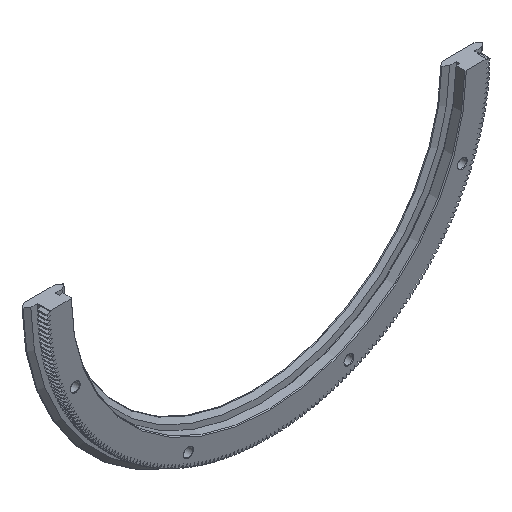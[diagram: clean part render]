
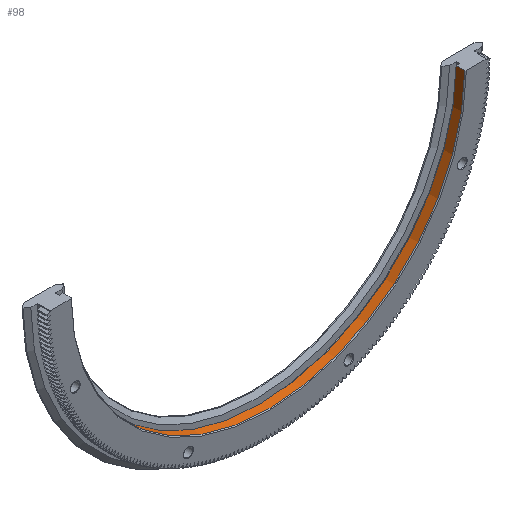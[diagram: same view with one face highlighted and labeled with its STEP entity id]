
A CAD part, isometric view. The second image highlights one B-rep face of the part: STEP entity #98.
In plain terms, the highlighted cylindrical face has radius 119.8 mm (diameter 239.6 mm), a partial arc.
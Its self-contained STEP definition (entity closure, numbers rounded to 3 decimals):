
#98 = ADVANCED_FACE( '', ( #1171 ), #1172, .F. );
#1171 = FACE_OUTER_BOUND( '', #3276, .T. );
#1172 = CYLINDRICAL_SURFACE( '', #3277, 119.8 );
#3276 = EDGE_LOOP( '', ( #5848, #5849, #5850, #5851 ) );
#3277 = AXIS2_PLACEMENT_3D( '', #5852, #5853, #5854 );
#5848 = ORIENTED_EDGE( '', *, *, #14364, .F. );
#5849 = ORIENTED_EDGE( '', *, *, #13960, .T. );
#5850 = ORIENTED_EDGE( '', *, *, #14365, .T. );
#5851 = ORIENTED_EDGE( '', *, *, #14356, .T. );
#5852 = CARTESIAN_POINT( '', ( 0., 0., 0. ) );
#5853 = DIRECTION( '', ( 0., 1., 0. ) );
#5854 = DIRECTION( '', ( 0., 0., -1. ) );
#13960 = EDGE_CURVE( '', #16724, #16722, #16725, .T. );
#14356 = EDGE_CURVE( '', #17500, #17498, #17501, .F. );
#14364 = EDGE_CURVE( '', #16724, #17498, #17514, .T. );
#14365 = EDGE_CURVE( '', #16722, #17500, #17515, .T. );
#16722 = VERTEX_POINT( '', #21214 );
#16724 = VERTEX_POINT( '', #21219 );
#16725 = LINE( '', #21220, #21221 );
#17498 = VERTEX_POINT( '', #22075 );
#17500 = VERTEX_POINT( '', #22078 );
#17501 = LINE( '', #22079, #22080 );
#17514 = CIRCLE( '', #22097, 119.8 );
#17515 = CIRCLE( '', #22098, 119.8 );
#21214 = CARTESIAN_POINT( '', ( -119.796, 0.5, -1. ) );
#21219 = CARTESIAN_POINT( '', ( -119.796, 5.75, -1. ) );
#21220 = CARTESIAN_POINT( '', ( -119.796, 0., -1. ) );
#21221 = VECTOR( '', #28251, 1000. );
#22075 = CARTESIAN_POINT( '', ( 119.796, 5.75, -1. ) );
#22078 = CARTESIAN_POINT( '', ( 119.796, 0.5, -1. ) );
#22079 = CARTESIAN_POINT( '', ( 119.796, 0., -1. ) );
#22080 = VECTOR( '', #29345, 1000. );
#22097 = AXIS2_PLACEMENT_3D( '', #29362, #29363, #29364 );
#22098 = AXIS2_PLACEMENT_3D( '', #29365, #29366, #29367 );
#28251 = DIRECTION( '', ( 0., -1., 0. ) );
#29345 = DIRECTION( '', ( 0., -1., 0. ) );
#29362 = CARTESIAN_POINT( '', ( 0., 5.75, 0. ) );
#29363 = DIRECTION( '', ( 0., -1., 0. ) );
#29364 = DIRECTION( '', ( 0., 0., -1. ) );
#29365 = CARTESIAN_POINT( '', ( 0., 0.5, 0. ) );
#29366 = DIRECTION( '', ( 0., -1., 0. ) );
#29367 = DIRECTION( '', ( 0., 0., -1. ) );
